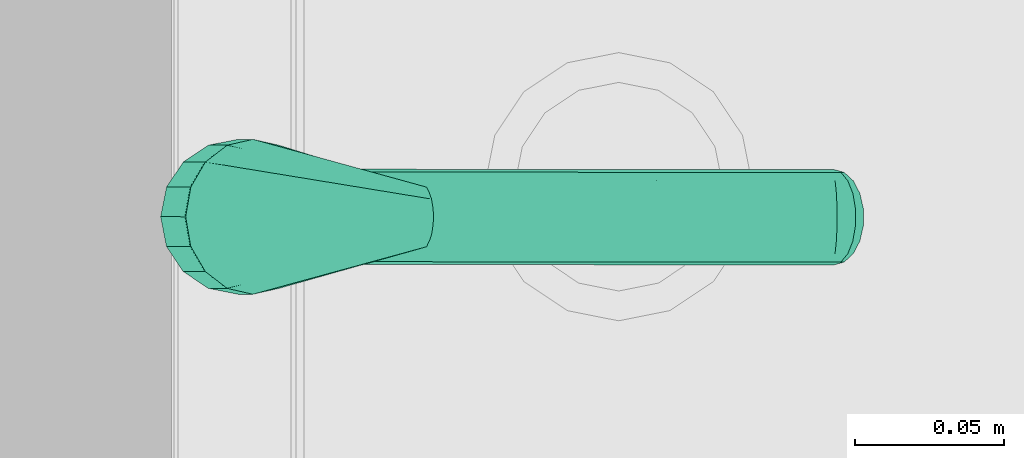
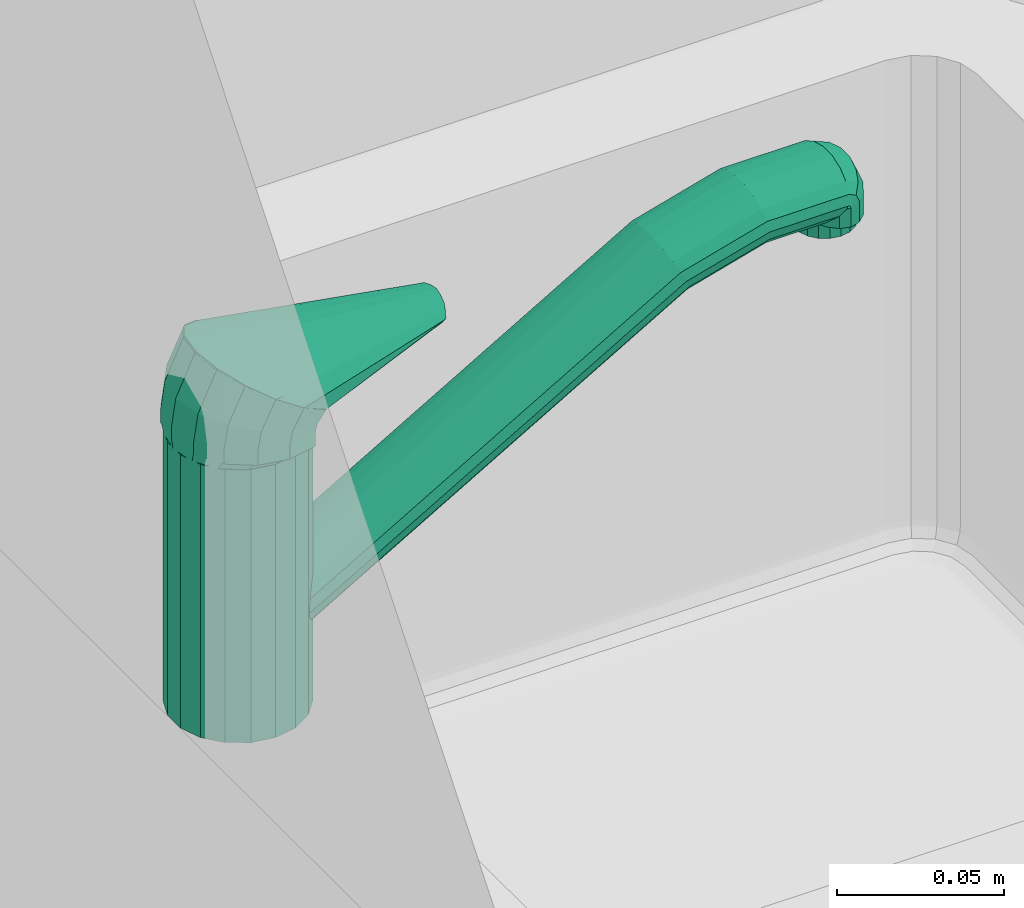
# One storey, part 88 of 127: 1 flow terminal.
"""IFC2X3 building model written with IfcOpenShell, lengths in millimetres."""

import ifcopenshell
import ifcopenshell.guid

model = None  # the IFC model being written
_history = None  # IfcOwnerHistory: only IFC2X3 demands one
_inside = {}  # id of a spatial element -> (the spatial element, [elements in it])
_under = {}  # id of a project, library or spatial element -> (it, [spatial elements below it])
_declared = {}  # id of a project -> (the project, [libraries it declares])
_typed = {}  # id of a type object -> (the type object, [elements of that type])
_made_of = {}  # id of a material, layer set ... -> (it, [elements and type objects made of it])


def new_model(schema):
    """Start an empty IFC model of exactly this schema.

    Asked for "IFC4X3", IfcOpenShell would pick the latest addendum, in which some entities
    have other attributes; the version numbers below select the first issue.
    IFC2X3 requires an IfcOwnerHistory on every rooted entity: one is made here for all.
    """
    global model, _history
    if schema == "IFC4X3":
        model = ifcopenshell.file(schema_version=(4, 3, 0, 0))
    else:
        model = ifcopenshell.file(schema=schema)
    _inside.clear()
    _under.clear()
    _declared.clear()
    _typed.clear()
    _made_of.clear()
    _history = None
    if model.schema == "IFC2X3":
        org = make("IfcOrganization", Name="unknown")
        user = make(
            "IfcPersonAndOrganization",
            ThePerson=make("IfcPerson", FamilyName="unknown"),
            TheOrganization=org,
        )
        app = make(
            "IfcApplication",
            ApplicationDeveloper=org,
            Version="unknown",
            ApplicationFullName="unknown",
            ApplicationIdentifier="unknown",
        )
        _history = make(
            "IfcOwnerHistory",
            OwningUser=user,
            OwningApplication=app,
            ChangeAction="ADDED",
            CreationDate=0,
        )
    return model


def make(cls, **values):
    """One entity of the class cls with the attributes given. An attribute that is None is left unset."""
    return model.create_entity(
        cls, **{name: value for name, value in values.items() if value is not None}
    )


def entity(cls, *values):
    """Any entity or typed value of the class cls, its attributes in the order of the schema. None: left unset."""
    e = model.create_entity(cls)
    for i, value in enumerate(values):
        if value is not None:
            e[i] = value
    return e


def rooted(cls, **values):
    """An entity with a GlobalId (a new one), such as an element, a storey or a relation."""
    return make(cls, GlobalId=ifcopenshell.guid.new(), OwnerHistory=_history, **values)


def si_unit(unit_type, name, prefix=None):
    """IfcSIUnit, for example si_unit("LENGTHUNIT", "METRE", prefix="MILLI")."""
    return make("IfcSIUnit", UnitType=unit_type, Prefix=prefix, Name=name)


def converted_unit(unit_type, name, factor, base, dimensions=None, offset=None):
    """IfcConversionBasedUnit, such as the inch: factor (a typed value) times the base unit."""
    return make(
        "IfcConversionBasedUnit"
        if offset is None
        else "IfcConversionBasedUnitWithOffset",
        ConversionOffset=offset,
        Dimensions=None
        if dimensions is None
        else entity("IfcDimensionalExponents", *dimensions),
        UnitType=unit_type,
        Name=name,
        ConversionFactor=make(
            "IfcMeasureWithUnit", ValueComponent=factor, UnitComponent=base
        ),
    )


def derived_unit(unit_type, elements):
    """IfcDerivedUnit: a product of units, each with its exponent."""
    return make(
        "IfcDerivedUnit",
        Elements=[
            make("IfcDerivedUnitElement", Unit=unit, Exponent=power)
            for unit, power in elements
        ],
        UnitType=unit_type,
    )


def money_unit(currency):
    """IfcMonetaryUnit."""
    return make("IfcMonetaryUnit", Currency=currency)


def assignment(units):
    """IfcUnitAssignment: the units of a project."""
    return None if units is None else make("IfcUnitAssignment", Units=units)


def point(xyz):
    """IfcCartesianPoint."""
    return None if xyz is None else make("IfcCartesianPoint", Coordinates=xyz)


def direction(xyz):
    """IfcDirection."""
    return None if xyz is None else make("IfcDirection", DirectionRatios=xyz)


def frame(location, z_axis=None, x_axis=None):
    """IfcAxis2Placement3D, a coordinate frame: its origin and axes. An axis left out is left unset."""
    return make(
        "IfcAxis2Placement3D",
        Location=point(location),
        Axis=direction(z_axis),
        RefDirection=direction(x_axis),
    )


def origin_with_axes():
    """The frame at (0, 0, 0) with the z axis (0, 0, 1) and the x axis (1, 0, 0) written out."""
    return frame((0.0, 0.0, 0.0), z_axis=(0.0, 0.0, 1.0), x_axis=(1.0, 0.0, 0.0))


def place(relative_to, where):
    """IfcLocalPlacement: puts the frame where relative to a parent placement (None: the world)."""
    return make(
        "IfcLocalPlacement", PlacementRelTo=relative_to, RelativePlacement=where
    )


def context(
    kind, dimensions, precision=None, world=None, true_north=None, identifier=None
):
    """IfcGeometricRepresentationContext, for example the 3D "Model" context."""
    return make(
        "IfcGeometricRepresentationContext",
        ContextIdentifier=identifier,
        ContextType=kind,
        CoordinateSpaceDimension=dimensions,
        Precision=precision,
        WorldCoordinateSystem=world,
        TrueNorth=true_north,
    )


def subcontext(parent, identifier, kind, view, scale=None):
    """IfcGeometricRepresentationSubContext, for example "Body" below "Model"."""
    return make(
        "IfcGeometricRepresentationSubContext",
        ContextIdentifier=identifier,
        ContextType=kind,
        ParentContext=parent,
        TargetScale=scale,
        TargetView=view,
    )


def project(units=None, contexts=None):
    """IfcProject with its units and contexts."""
    return rooted(
        "IfcProject",
        Name="project",
        RepresentationContexts=contexts,
        UnitsInContext=assignment(units),
    )


def spatial(cls, under=None, at=None, **own):
    """A site, building, storey or space (cls), placed at a placement, below another one or the project."""
    s = rooted(cls, ObjectPlacement=at, **own)
    if under is not None:
        _under.setdefault(under.id(), (under, []))[1].append(s)
    return s


def faces_of(points, faces, orient=None, outer=None):
    """IfcFace entities. A face is a list of loops; a loop is a list of indices into points, from 0.

    orient and outer hold one flag for each loop. By default every Orientation is true, the
    first loop of a face is its IfcFaceOuterBound and the others are IfcFaceBound.
    """
    made = []
    for i, loops in enumerate(faces):
        bounds = []
        for j, loop in enumerate(loops):
            is_outer = j == 0 if outer is None else outer[i][j]
            bounds.append(
                make(
                    "IfcFaceOuterBound" if is_outer else "IfcFaceBound",
                    Bound=make("IfcPolyLoop", Polygon=[points[k] for k in loop]),
                    Orientation=True if orient is None else orient[i][j],
                )
            )
        made.append(make("IfcFace", Bounds=bounds))
    return made


def open_shell(faces, orient=None, outer=None):
    """The faces of one IfcOpenShell. surface_model builds it on its shared points."""
    return ("IfcOpenShell", faces, orient, outer)


def faceted_brep(points, faces, orient=None, outer=None, voids=None):
    """IfcFacetedBrep: a solid bounded by flat faces; with voids (closed shells), ...WithVoids."""
    shared = [point(p) for p in points]
    hull = make("IfcClosedShell", CfsFaces=faces_of(shared, faces, orient, outer))
    if voids is None:
        return make("IfcFacetedBrep", Outer=hull)
    return make(
        "IfcFacetedBrepWithVoids",
        Outer=hull,
        Voids=[
            make(cls, CfsFaces=faces_of(shared, fs, o, b)) for cls, fs, o, b in voids
        ],
    )


def surface_model(cls, points, shells):
    """IfcFaceBasedSurfaceModel or IfcShellBasedSurfaceModel (cls): surfaces that need not close."""
    shared = [point(p) for p in points]
    made = [make(c, CfsFaces=faces_of(shared, fs, o, b)) for c, fs, o, b in shells]
    if cls == "IfcFaceBasedSurfaceModel":
        return make(cls, FbsmFaces=made)
    return make(cls, SbsmBoundary=made)


def shape(context_of_items, identifier, shape_type, items):
    """IfcShapeRepresentation: the items that make up one representation, for example the "Body"."""
    return make(
        "IfcShapeRepresentation",
        ContextOfItems=context_of_items,
        RepresentationIdentifier=identifier,
        RepresentationType=shape_type,
        Items=items,
    )


def source(mapping_origin, context_of_items, identifier, shape_type, items):
    """IfcRepresentationMap: a shape defined once, which mapped items show again and again."""
    return make(
        "IfcRepresentationMap",
        MappingOrigin=mapping_origin,
        MappedRepresentation=shape(context_of_items, identifier, shape_type, items),
    )


def transform(
    local_origin,
    x_axis=None,
    y_axis=None,
    z_axis=None,
    scale=None,
    scale2=None,
    scale3=None,
    uniform=True,
):
    """IfcCartesianTransformationOperator3D, or its non-uniform kind. x_axis, y_axis, z_axis: its Axis1, 2, 3."""
    if uniform:
        return make(
            "IfcCartesianTransformationOperator3D",
            Axis1=direction(x_axis),
            Axis2=direction(y_axis),
            LocalOrigin=point(local_origin),
            Scale=scale,
            Axis3=direction(z_axis),
        )
    return make(
        "IfcCartesianTransformationOperator3DnonUniform",
        Axis1=direction(x_axis),
        Axis2=direction(y_axis),
        LocalOrigin=point(local_origin),
        Scale=scale,
        Axis3=direction(z_axis),
        Scale2=scale2,
        Scale3=scale3,
    )


def mapped(mapping_source, mapping_target):
    """IfcMappedItem: shows the shape of a source again, moved by a transform."""
    return make(
        "IfcMappedItem", MappingSource=mapping_source, MappingTarget=mapping_target
    )


def made_of(thing, what):
    """Note that an element or type object is made of a material, layer set ...; save() writes the relation."""
    if what is not None:
        _made_of.setdefault(what.id(), (what, []))[1].append(thing)
    return thing


def type_object(cls, material=None, **own):
    """A type object (cls), such as IfcWallType, which elements share."""
    return made_of(rooted(cls, **own), material)


def element(
    cls,
    number,
    at=None,
    inside=None,
    cuts=None,
    type_object=None,
    material=None,
    context=None,
    identifier="Body",
    shape_type=None,
    held_by="IfcProductDefinitionShape",
    body=None,
    shapes=None,
    **own,
):
    """One element of the class cls, such as IfcWall. Its Tag is "e" and its number.

    at: its placement. inside: the storey or other place that contains it. cuts: it is an
    opening in that element (IfcRelVoidsElement). A single representation is given by context,
    identifier, shape_type and body (its items); several are given by shapes. held_by: the class
    of the entity that holds the representations. save() writes the other relations.
    """
    e = rooted(cls, Tag="e%d" % number, ObjectPlacement=at, **own)
    if body is not None:
        shapes = [shape(context, identifier, shape_type, body)]
    if shapes is not None:
        e.Representation = make(held_by, Representations=shapes)
    if inside is not None:
        _inside.setdefault(inside.id(), (inside, []))[1].append(e)
    if cuts is not None:
        rooted(
            "IfcRelVoidsElement", RelatingBuildingElement=cuts, RelatedOpeningElement=e
        )
    if type_object is not None:
        _typed.setdefault(type_object.id(), (type_object, []))[1].append(e)
    return made_of(e, material)


def aggregate(whole, parts):
    """IfcRelAggregates: a whole, such as a stair, and the parts it consists of."""
    return rooted("IfcRelAggregates", RelatingObject=whole, RelatedObjects=parts)


def save(model, path):
    """Write the relations noted so far, then the file.

    IfcRelAggregates (storeys below a building ...), IfcRelContainedInSpatialStructure (elements
    in a storey), IfcRelDefinesByType, IfcRelAssociatesMaterial and IfcRelDeclares: one each for
    every whole, place, type object, material and project.
    """
    for whole, parts in _under.values():
        aggregate(whole, parts)
    for where, things in _inside.values():
        rooted(
            "IfcRelContainedInSpatialStructure",
            RelatedElements=things,
            RelatingStructure=where,
        )
    for kind, things in _typed.values():
        rooted("IfcRelDefinesByType", RelatedObjects=things, RelatingType=kind)
    for what, things in _made_of.values():
        rooted("IfcRelAssociatesMaterial", RelatedObjects=things, RelatingMaterial=what)
    for by, libraries in _declared.values():
        rooted("IfcRelDeclares", RelatingContext=by, RelatedDefinitions=libraries)
    model.write(path)


model = new_model("IFC2X3")

# Units and contexts
model_context = context("Model", 3, precision=1e-05, world=origin_with_axes(), true_north=direction((0.0, 1.0)))
body_context = subcontext(model_context, "Body", "Model", "MODEL_VIEW")
ifc_project = project(units=[si_unit("LENGTHUNIT", "METRE", prefix="MILLI"), si_unit("AREAUNIT", "SQUARE_METRE"), si_unit("VOLUMEUNIT", "CUBIC_METRE"), converted_unit("PLANEANGLEUNIT", "DEGREE", entity("IfcPlaneAngleMeasure", 0.0174532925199), si_unit("PLANEANGLEUNIT", "RADIAN"), dimensions=[0, 0, 0, 0, 0, 0, 0]), si_unit("SOLIDANGLEUNIT", "STERADIAN"), money_unit("EUR"), converted_unit("TIMEUNIT", "Year", entity("IfcTimeMeasure", 31556926.0), si_unit("TIMEUNIT", "SECOND"), dimensions=[0, 0, 1, 0, 0, 0, 0]), si_unit("MASSUNIT", "GRAM", prefix="KILO"), si_unit("THERMODYNAMICTEMPERATUREUNIT", "DEGREE_CELSIUS"), si_unit("LUMINOUSINTENSITYUNIT", "LUMEN"), si_unit("ENERGYUNIT", "JOULE", prefix="MEGA"), derived_unit("THERMALCONDUCTANCEUNIT", [(si_unit("POWERUNIT", "WATT"), 1), (si_unit("LENGTHUNIT", "METRE"), -1), (si_unit("THERMODYNAMICTEMPERATUREUNIT", "KELVIN"), -1)]), derived_unit("SPECIFICHEATCAPACITYUNIT", [(si_unit("ENERGYUNIT", "JOULE"), 1), (si_unit("MASSUNIT", "GRAM", prefix="KILO"), -1), (si_unit("THERMODYNAMICTEMPERATUREUNIT", "KELVIN"), -1)]), derived_unit("MASSDENSITYUNIT", [(si_unit("MASSUNIT", "GRAM", prefix="KILO"), 1), (si_unit("VOLUMEUNIT", "CUBIC_METRE"), -1)])], contexts=[model_context])

# Site, building, storey
site_placement = place(None, origin_with_axes())
site = spatial("IfcSite", under=ifc_project, at=site_placement, Name="Site", CompositionType="ELEMENT")
building_placement = place(site_placement, origin_with_axes())
building = spatial("IfcBuilding", under=site, at=building_placement, Name="Building", CompositionType="ELEMENT")
storey_placement = place(building_placement, origin_with_axes())
storey = spatial("IfcBuildingStorey", under=building, at=storey_placement, Name="1 KORRUS", CompositionType="ELEMENT", Elevation=0.0)

# Flow terminal
sanitary_terminal_type = type_object("IfcSanitaryTerminalType", Name="Tap 22", PredefinedType="NOTDEFINED")
shared_shape = source(origin_with_axes(), body_context, "Body", "SurfaceModel", [
    faceted_brep([(-21.1430839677, -7.69545322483, 1000.0), (-22.5, 0.0, 1000.0), (-21.1430839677, 7.69545322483, 1000.0), (-17.2359999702, 14.4627212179, 1000.0), (-11.25, 19.4855715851, 1000.0), (-3.90708399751, 22.1581744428, 1000.0), (3.90708399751, 22.1581744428, 1000.0), (11.25, 19.4855715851, 1000.0), (17.2359999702, 14.4627212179, 1000.0), (21.1430839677, 7.69545322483, 1000.0), (22.5, 0.0, 1000.0), (21.1430839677, -7.69545322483, 1000.0), (17.2359999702, -14.4627212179, 1000.0), (11.25, -19.4855715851, 1000.0), (3.90708399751, -22.1581744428, 1000.0), (-3.90708399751, -22.1581744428, 1000.0), (-11.25, -19.4855715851, 1000.0), (-17.2359999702, -14.4627212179, 1000.0), (-21.1430839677, -7.69545322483, 1010.0), (-22.5, 0.0, 1010.0), (-21.1430839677, 7.69545322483, 1010.0), (-17.2359999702, 14.4627212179, 1010.0), (-11.25, 19.4855715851, 1010.0), (-3.90708399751, 22.1581744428, 1010.0), (3.90708399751, 22.1581744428, 1010.0), (11.25, 19.4855715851, 1010.0), (17.2359999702, 14.4627212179, 1010.0), (21.1430839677, 7.69545322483, 1010.0), (22.5, 0.0, 1010.0), (21.1430839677, -7.69545322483, 1010.0), (17.2359999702, -14.4627212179, 1010.0), (11.25, -19.4855715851, 1010.0), (3.90708399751, -22.1581744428, 1010.0), (-3.90708399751, -22.1581744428, 1010.0), (-11.25, -19.4855715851, 1010.0), (-17.2359999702, -14.4627212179, 1010.0)], [[[0, 1, 2, 3, 4, 5, 6, 7, 8, 9, 10, 11, 12, 13, 14, 15, 16, 17]], [[0, 18, 19, 1]], [[1, 19, 20, 2]], [[2, 20, 21, 3]], [[3, 21, 22, 4]], [[4, 22, 23, 5]], [[5, 23, 24, 6]], [[6, 24, 25, 7]], [[7, 25, 26, 8]], [[8, 26, 27, 9]], [[9, 27, 28, 10]], [[10, 28, 29, 11]], [[11, 29, 30, 12]], [[12, 30, 31, 13]], [[13, 31, 32, 14]], [[14, 32, 33, 15]], [[15, 33, 34, 16]], [[16, 34, 35, 17]], [[17, 35, 18, 0]], [[18, 35, 34, 33, 32, 31, 30, 29, 28, 27, 26, 25, 24, 23, 22, 21, 20, 19]]]),
    faceted_brep([(-21.1430839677, -7.69545322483, 1010.0), (-22.5, 0.0, 1010.0), (-21.1430839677, 7.69545322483, 1010.0), (-17.2359999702, 14.4627212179, 1010.0), (-11.25, 19.4855715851, 1010.0), (-3.90708399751, 22.1581744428, 1010.0), (3.90708399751, 22.1581744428, 1010.0), (11.25, 19.4855715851, 1010.0), (17.2359999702, 14.4627212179, 1010.0), (21.1430839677, 7.69545322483, 1010.0), (22.5, 0.0, 1010.0), (21.1430839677, -7.69545322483, 1010.0), (17.2359999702, -14.4627212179, 1010.0), (11.25, -19.4855715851, 1010.0), (3.90708399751, -22.1581744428, 1010.0), (-3.90708399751, -22.1581744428, 1010.0), (-11.25, -19.4855715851, 1010.0), (-17.2359999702, -14.4627212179, 1010.0), (-21.1430839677, -7.69545322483, 1055.0), (-22.5, 0.0, 1055.0), (-21.1430839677, 7.69545322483, 1055.0), (-17.2359999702, 14.4627212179, 1055.0), (-11.25, 19.4855715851, 1055.0), (-3.90708399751, 22.1581744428, 1055.0), (3.90708399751, 22.1581744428, 1055.0), (11.25, 19.4855715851, 1055.0), (17.2359999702, 14.4627212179, 1055.0), (21.1430839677, 7.69545322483, 1055.0), (22.5, 0.0, 1055.0), (21.1430839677, -7.69545322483, 1055.0), (17.2359999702, -14.4627212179, 1055.0), (11.25, -19.4855715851, 1055.0), (3.90708399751, -22.1581744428, 1055.0), (-3.90708399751, -22.1581744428, 1055.0), (-11.25, -19.4855715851, 1055.0), (-17.2359999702, -14.4627212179, 1055.0)], [[[0, 1, 2, 3, 4, 5, 6, 7, 8, 9, 10, 11, 12, 13, 14, 15, 16, 17]], [[0, 18, 19, 1]], [[1, 19, 20, 2]], [[2, 20, 21, 3]], [[3, 21, 22, 4]], [[4, 22, 23, 5]], [[5, 23, 24, 6]], [[6, 24, 25, 7]], [[7, 25, 26, 8]], [[8, 26, 27, 9]], [[9, 27, 28, 10]], [[10, 28, 29, 11]], [[11, 29, 30, 12]], [[12, 30, 31, 13]], [[13, 31, 32, 14]], [[14, 32, 33, 15]], [[15, 33, 34, 16]], [[16, 34, 35, 17]], [[17, 35, 18, 0]], [[18, 35, 34, 33, 32, 31, 30, 29, 28, 27, 26, 25, 24, 23, 22, 21, 20, 19]]]),
    faceted_brep([(-21.1430839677, -7.69545322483, 1055.0), (-22.5, 0.0, 1055.0), (-21.1430839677, 7.69545322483, 1055.0), (-17.2359999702, 14.4627212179, 1055.0), (-11.25, 19.4855715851, 1055.0), (-3.90708399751, 22.1581744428, 1055.0), (3.90708399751, 22.1581744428, 1055.0), (11.25, 19.4855715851, 1055.0), (17.2359999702, 14.4627212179, 1055.0), (21.1430839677, 7.69545322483, 1055.0), (22.5, 0.0, 1055.0), (21.1430839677, -7.69545322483, 1055.0), (17.2359999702, -14.4627212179, 1055.0), (11.25, -19.4855715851, 1055.0), (3.90708399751, -22.1581744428, 1055.0), (-3.90708399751, -22.1581744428, 1055.0), (-11.25, -19.4855715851, 1055.0), (-17.2359999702, -14.4627212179, 1055.0), (-21.1430839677, -7.69545322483, 1100.0), (-22.5, 0.0, 1100.0), (-21.1430839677, 7.69545322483, 1100.0), (-17.2359999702, 14.4627212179, 1100.0), (-11.25, 19.4855715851, 1100.0), (-3.90708399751, 22.1581744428, 1100.0), (3.90708399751, 22.1581744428, 1100.0), (11.25, 19.4855715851, 1100.0), (17.2359999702, 14.4627212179, 1100.0), (21.1430839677, 7.69545322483, 1100.0), (22.5, 0.0, 1100.0), (21.1430839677, -7.69545322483, 1100.0), (17.2359999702, -14.4627212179, 1100.0), (11.25, -19.4855715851, 1100.0), (3.90708399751, -22.1581744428, 1100.0), (-3.90708399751, -22.1581744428, 1100.0), (-11.25, -19.4855715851, 1100.0), (-17.2359999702, -14.4627212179, 1100.0)], [[[0, 1, 2, 3, 4, 5, 6, 7, 8, 9, 10, 11, 12, 13, 14, 15, 16, 17]], [[0, 18, 19, 1]], [[1, 19, 20, 2]], [[2, 20, 21, 3]], [[3, 21, 22, 4]], [[4, 22, 23, 5]], [[5, 23, 24, 6]], [[6, 24, 25, 7]], [[7, 25, 26, 8]], [[8, 26, 27, 9]], [[9, 27, 28, 10]], [[10, 28, 29, 11]], [[11, 29, 30, 12]], [[12, 30, 31, 13]], [[13, 31, 32, 14]], [[14, 32, 33, 15]], [[15, 33, 34, 16]], [[16, 34, 35, 17]], [[17, 35, 18, 0]], [[18, 35, 34, 33, 32, 31, 30, 29, 28, 27, 26, 25, 24, 23, 22, 21, 20, 19]]]),
    surface_model("IfcShellBasedSurfaceModel", [(-20.7872894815, -8.61037722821, 1100.0), (-24.0208678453, -12.9497692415, 1104.5), (-26.0, -3.0, 1104.5), (-22.5, 0.0, 1100.0), (-15.9099025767, -15.9099025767, 1100.0), (-24.0208678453, -12.9497692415, 1104.5), (-24.0208678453, 6.94976924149, 1104.5), (-20.7872894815, 8.61037722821, 1100.0), (-8.61037722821, -20.7872894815, 1100.0), (-18.3847763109, 15.3847763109, 1104.5), (-15.9099025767, 15.9099025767, 1100.0), (0.0, -25.1, 1104.5), (-9.94976924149, 21.0208678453, 1104.5), (-8.61037722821, 20.7872894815, 1100.0), (0.0, -22.5, 1100.0), (0.0, 23.0, 1104.5), (0.0, 22.5, 1100.0), (8.61037722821, -20.7872894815, 1100.0), (9.94976924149, 21.0208678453, 1104.5), (8.61037722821, 20.7872894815, 1100.0), (15.9099025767, -15.9099025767, 1100.0), (18.3847763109, 15.3847763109, 1104.5), (15.9099025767, 15.9099025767, 1100.0), (24.0208678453, -12.9497692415, 1104.5), (24.0208678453, 6.94976924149, 1104.5), (20.7872894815, 8.61037722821, 1100.0), (20.7872894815, -8.61037722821, 1100.0), (26.0, -3.0, 1104.5), (22.5, 0.0, 1100.0)], [open_shell([[[0, 1, 2, 3]], [[4, 5, 1, 0]], [[3, 2, 6, 7]], [[8, 5, 4]], [[7, 6, 9, 10]], [[8, 11, 5]], [[10, 9, 12, 13]], [[14, 11, 8]], [[13, 12, 15, 16]], [[17, 11, 14]], [[16, 15, 18, 19]], [[20, 11, 17]], [[19, 18, 21, 22]], [[20, 23, 11]], [[22, 21, 24, 25]], [[26, 23, 20]], [[25, 24, 27, 28]], [[28, 27, 23, 26]]])]),
    surface_model("IfcShellBasedSurfaceModel", [(-24.0208678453, -12.9497692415, 1103.0), (-24.0208678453, -12.9497692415, 1108.0), (-26.0, -3.0, 1108.0), (-24.0208678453, -12.9497692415, 1103.0), (-26.0, -4.0, 1113.0), (-26.0, -3.0, 1103.0), (-24.0208678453, -12.9497692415, 1108.0), (-24.0208678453, 5.75655144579, 1114.95131029), (-24.0208678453, -13.7565514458, 1111.04868971), (-24.0208678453, 6.94976924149, 1108.0), (0.0, -25.1, 1103.0), (-24.0208678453, 0.638818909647, 1124.93646795), (-26.0, -8.0, 1120.0), (-24.0208678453, 6.94976924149, 1103.0), (0.0, -25.1, 1108.0), (-24.0208678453, -13.7565514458, 1111.04868971), (-18.3847763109, 7.96245595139, 1129.1214034), (-18.3847763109, 14.0277563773, 1116.60555128), (-24.0208678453, -16.6388189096, 1115.06353205), (-18.3847763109, 15.3847763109, 1108.0), (24.0208678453, -12.9497692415, 1103.0), (-18.3847763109, 15.3847763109, 1103.0), (24.0208678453, -12.9497692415, 1108.0), (0.0, -25.6708329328, 1108.66583341), (-24.0208678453, -16.6388189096, 1115.06353205), (-9.94976924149, 12.8559537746, 1131.91768787), (-9.94976924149, 19.5543988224, 1117.71087976), (-9.94976924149, 21.0208678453, 1108.0), (26.0, -3.0, 1103.0), (-9.94976924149, 21.0208678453, 1103.0), (26.0, -3.0, 1108.0), (24.0208678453, -13.7565514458, 1111.04868971), (0.0, -27.188173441, 1109.03532946), (0.0, 14.5743216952, 1132.8996124), (0.0, 21.495097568, 1118.09901951), (0.0, 23.0, 1108.0), (24.0208678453, 6.94976924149, 1103.0), (0.0, 23.0, 1103.0), (24.0208678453, 6.94976924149, 1108.0), (26.0, -4.0, 1113.0), (24.0208678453, -16.6388189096, 1115.06353205), (9.94976924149, 12.8559537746, 1131.91768787), (9.94976924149, 19.5543988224, 1117.71087976), (9.94976924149, 21.0208678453, 1108.0), (18.3847763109, 15.3847763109, 1103.0), (9.94976924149, 21.0208678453, 1103.0), (18.3847763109, 15.3847763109, 1108.0), (24.0208678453, 5.75655144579, 1114.95131029), (26.0, -8.0, 1120.0), (18.3847763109, 7.96245595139, 1129.1214034), (18.3847763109, 14.0277563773, 1116.60555128), (24.0208678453, 0.638818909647, 1124.93646795)], [open_shell([[[0, 1, 2]], [[1, 0, 3]], [[4, 2, 1]], [[2, 5, 0]], [[3, 6, 1]], [[2, 4, 7]], [[1, 8, 4]], [[5, 2, 9]], [[6, 3, 10]], [[8, 1, 6]], [[11, 7, 4]], [[7, 9, 2]], [[12, 4, 8]], [[9, 13, 5]], [[10, 14, 6]], [[6, 15, 8]], [[7, 11, 16]], [[4, 12, 11]], [[9, 7, 17]], [[8, 18, 12]], [[13, 9, 19]], [[14, 10, 20]], [[15, 6, 14]], [[18, 8, 15]], [[16, 17, 7]], [[17, 19, 9]], [[19, 21, 13]], [[20, 22, 14]], [[14, 23, 15]], [[15, 24, 18]], [[17, 16, 25]], [[19, 17, 26]], [[21, 19, 27]], [[22, 20, 28]], [[23, 14, 22]], [[24, 15, 23]], [[25, 26, 17]], [[26, 27, 19]], [[27, 29, 21]], [[28, 30, 22]], [[22, 31, 23]], [[23, 32, 24]], [[26, 25, 33]], [[27, 26, 34]], [[29, 27, 35]], [[30, 28, 36]], [[31, 22, 30]], [[32, 23, 31]], [[33, 34, 26]], [[34, 35, 27]], [[35, 37, 29]], [[36, 38, 30]], [[30, 39, 31]], [[31, 40, 32]], [[34, 33, 41]], [[35, 34, 42]], [[37, 35, 43]], [[38, 36, 44]], [[39, 30, 38]], [[40, 31, 39]], [[41, 42, 34]], [[42, 43, 35]], [[43, 45, 37]], [[44, 46, 38]], [[38, 47, 39]], [[39, 48, 40]], [[42, 41, 49]], [[43, 42, 50]], [[45, 43, 46]], [[46, 44, 45]], [[47, 38, 46]], [[48, 39, 47]], [[49, 50, 42]], [[50, 46, 43]], [[46, 50, 47]], [[47, 51, 48]], [[50, 49, 51]], [[51, 47, 50]]])]),
    surface_model("IfcShellBasedSurfaceModel", [(-24.0208678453, -16.7440274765, 1115.25238044), (-10.0, -66.2556184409, 1122.50657537), (-26.0, -8.0, 1120.0), (-9.0, -65.3013009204, 1120.74894114), (-8.0, -67.2099359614, 1124.26420959), (0.0, -27.4218581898, 1109.4547914), (0.0, -63.8698246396, 1118.1124898), (9.0, -65.3013009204, 1120.74894114), (10.0, -66.2556184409, 1122.50657537), (8.0, -67.2099359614, 1124.26420959), (6.0, -67.9256741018, 1125.58243526), (3.0, -68.4028328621, 1126.46125237), (0.0, -68.6414122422, 1126.90066093), (-3.0, -68.4028328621, 1126.46125237), (-6.0, -67.9256741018, 1125.58243526), (-24.0208678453, 0.744027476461, 1124.74761956), (24.0208678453, -16.7440274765, 1115.25238044), (26.0, -8.0, 1120.0), (24.0208678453, 0.744027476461, 1124.74761956), (18.3847763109, 8.15685603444, 1128.77245707), (9.94976924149, 13.1099497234, 1131.46176752), (0.0, 14.8492449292, 1132.40612777), (-9.94976924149, 13.1099497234, 1131.46176752), (-18.3847763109, 8.15685603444, 1128.77245707)], [open_shell([[[0, 1, 2]], [[0, 3, 1]], [[2, 1, 4]], [[5, 3, 0]], [[3, 6, 7, 8, 9, 10, 11, 12, 13, 14, 4, 1]], [[2, 4, 15]], [[5, 6, 3]], [[16, 7, 6]], [[17, 8, 7]], [[18, 9, 8]], [[19, 10, 9]], [[20, 11, 10]], [[21, 12, 11]], [[22, 13, 12]], [[23, 14, 13]], [[15, 4, 14]], [[16, 6, 5]], [[17, 7, 16]], [[18, 8, 17]], [[19, 9, 18]], [[20, 10, 19]], [[21, 11, 20]], [[22, 12, 21]], [[23, 13, 22]], [[15, 14, 23]]])]),
    surface_model("IfcShellBasedSurfaceModel", [(-16.0, -15.0, 1035.8), (-16.0, -146.0, 1112.0), (-15.0350819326, -144.663324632, 1115.17921593), (-15.0350819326, -13.350271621, 1038.79711945), (-15.0350819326, -16.649728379, 1032.80288055), (-15.0350819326, -147.336675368, 1108.82078407), (-16.0, -175.0, 1120.0), (-15.0350819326, -174.536897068, 1123.42020143), (-12.2567110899, -143.487872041, 1117.97497151), (-12.2567110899, -11.8995248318, 1041.43274206), (-12.2567110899, -18.1004751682, 1030.16725794), (-12.2567110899, -148.512127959, 1106.02502849), (-15.0350819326, -175.463102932, 1116.57979857), (-16.0, -202.0, 1120.0), (-15.0350819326, -202.702022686, 1123.42020143), (-12.2567110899, -174.129651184, 1126.4278761), (-8.0, -142.615419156, 1120.05005733), (-8.0, -10.8227411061, 1043.38897285), (-8.0, -19.1772588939, 1028.21102715), (-8.0, -149.384580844, 1103.94994267), (-12.2567110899, -175.870348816, 1113.5721239), (-15.0350819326, -201.297977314, 1116.57979857), (-16.0, -202.7, 1119.7), (-15.0350819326, -205.304747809, 1122.30474781), (-12.2567110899, -203.319371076, 1126.4278761), (-8.0, -173.827382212, 1128.66025404), (-2.77837084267, -142.151196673, 1121.15418744), (-2.77837084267, -10.2497964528, 1044.42986151), (-2.77837084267, -19.7502035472, 1027.17013849), (-2.77837084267, -149.848803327, 1102.84581256), (-8.0, -176.172617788, 1111.33974596), (-12.2567110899, -200.680628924, 1113.5721239), (-15.0350819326, -200.095252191, 1117.09525219), (-16.0, -203.0, 1119.0), (-15.0350819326, -206.420201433, 1119.70202269), (-12.2567110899, -207.595324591, 1124.59532459), (-8.0, -203.777583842, 1128.66025404), (-2.77837084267, -173.666548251, 1129.84807753), (2.77837084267, -142.151196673, 1121.15418744), (2.77837084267, -10.2497964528, 1044.42986151), (2.77837084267, -19.7502035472, 1027.17013849), (2.77837084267, -149.848803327, 1102.84581256), (-2.77837084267, -176.333451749, 1110.15192247), (-8.0, -200.222416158, 1111.33974596), (-12.2567110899, -197.804675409, 1114.80467541), (-15.0350819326, -199.579798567, 1118.29797731), (-16.0, -203.0, 1112.0), (-15.0350819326, -206.420201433, 1112.0), (-12.2567110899, -209.427876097, 1120.31937108), (-8.0, -209.295452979, 1126.29545298), (-2.77837084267, -204.021393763, 1129.84807753), (2.77837084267, -173.666548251, 1129.84807753), (8.0, -142.615419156, 1120.05005733), (8.0, -10.8227411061, 1043.38897285), (8.0, -19.1772588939, 1028.21102715), (8.0, -149.384580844, 1103.94994267), (2.77837084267, -176.333451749, 1110.15192247), (-2.77837084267, -199.978606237, 1110.15192247), (-8.0, -196.104547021, 1113.10454702), (-12.2567110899, -196.572123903, 1117.68062892), (-15.0350819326, -199.579798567, 1112.0), (-12.2567110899, -196.572123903, 1112.0), (-8.0, -194.339745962, 1112.0), (-2.77837084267, -193.15192247, 1112.0), (2.77837084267, -193.15192247, 1112.0), (8.0, -194.339745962, 1112.0), (12.2567110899, -196.572123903, 1112.0), (15.0350819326, -199.579798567, 1112.0), (16.0, -203.0, 1112.0), (15.0350819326, -206.420201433, 1112.0), (12.2567110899, -209.427876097, 1112.0), (8.0, -211.660254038, 1112.0), (2.77837084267, -212.84807753, 1112.0), (-2.77837084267, -212.84807753, 1112.0), (-8.0, -211.660254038, 1112.0), (-12.2567110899, -209.427876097, 1112.0), (-8.0, -211.660254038, 1120.77758384), (-2.77837084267, -210.2000724, 1127.2000724), (2.77837084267, -204.021393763, 1129.84807753), (8.0, -173.827382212, 1128.66025404), (12.2567110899, -143.487872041, 1117.97497151), (12.2567110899, -11.8995248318, 1041.43274206), (12.2567110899, -18.1004751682, 1030.16725794), (12.2567110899, -148.512127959, 1106.02502849), (8.0, -176.172617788, 1111.33974596), (2.77837084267, -199.978606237, 1110.15192247), (-2.77837084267, -195.1999276, 1112.1999276), (-8.0, -194.339745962, 1117.22241616), (-2.77837084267, -193.15192247, 1116.97860624), (2.77837084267, -193.15192247, 1116.97860624), (8.0, -194.339745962, 1117.22241616), (12.2567110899, -196.572123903, 1117.68062892), (15.0350819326, -199.579798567, 1118.29797731), (16.0, -203.0, 1119.0), (15.0350819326, -206.420201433, 1119.70202269), (12.2567110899, -209.427876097, 1120.31937108), (8.0, -211.660254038, 1120.77758384), (2.77837084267, -212.84807753, 1121.02139376), (-2.77837084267, -212.84807753, 1121.02139376), (2.77837084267, -210.2000724, 1127.2000724), (8.0, -203.777583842, 1128.66025404), (12.2567110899, -174.129651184, 1126.4278761), (15.0350819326, -144.663324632, 1115.17921593), (15.0350819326, -13.350271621, 1038.79711945), (15.0350819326, -16.649728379, 1032.80288055), (15.0350819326, -147.336675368, 1108.82078407), (12.2567110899, -175.870348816, 1113.5721239), (8.0, -200.222416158, 1111.33974596), (2.77837084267, -195.1999276, 1112.1999276), (8.0, -196.104547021, 1113.10454702), (12.2567110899, -197.804675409, 1114.80467541), (15.0350819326, -200.095252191, 1117.09525219), (16.0, -202.7, 1119.7), (15.0350819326, -205.304747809, 1122.30474781), (12.2567110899, -207.595324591, 1124.59532459), (8.0, -209.295452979, 1126.29545298), (12.2567110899, -203.319371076, 1126.4278761), (15.0350819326, -174.536897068, 1123.42020143), (16.0, -146.0, 1112.0), (16.0, -15.0, 1035.8), (15.0350819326, -175.463102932, 1116.57979857), (12.2567110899, -200.680628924, 1113.5721239), (15.0350819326, -201.297977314, 1116.57979857), (16.0, -202.0, 1120.0), (15.0350819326, -202.702022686, 1123.42020143), (16.0, -175.0, 1120.0)], [open_shell([[[0, 1, 2, 3]], [[4, 5, 1, 0]], [[1, 6, 7, 2]], [[3, 2, 8, 9]], [[10, 11, 5, 4]], [[5, 12, 6, 1]], [[6, 13, 14, 7]], [[2, 7, 15, 8]], [[9, 8, 16, 17]], [[18, 19, 11, 10]], [[11, 20, 12, 5]], [[12, 21, 13, 6]], [[13, 22, 23, 14]], [[7, 14, 24, 15]], [[8, 15, 25, 16]], [[17, 16, 26, 27]], [[28, 29, 19, 18]], [[19, 30, 20, 11]], [[20, 31, 21, 12]], [[21, 32, 22, 13]], [[22, 33, 34, 23]], [[14, 23, 35, 24]], [[15, 24, 36, 25]], [[16, 25, 37, 26]], [[27, 26, 38, 39]], [[40, 41, 29, 28]], [[29, 42, 30, 19]], [[30, 43, 31, 20]], [[31, 44, 32, 21]], [[32, 45, 33, 22]], [[33, 46, 47, 34]], [[23, 34, 48, 35]], [[24, 35, 49, 36]], [[25, 36, 50, 37]], [[26, 37, 51, 38]], [[39, 38, 52, 53]], [[54, 55, 41, 40]], [[41, 56, 42, 29]], [[42, 57, 43, 30]], [[43, 58, 44, 31]], [[44, 59, 45, 32]], [[45, 60, 46, 33]], [[46, 60, 61, 62, 63, 64, 65, 66, 67, 68, 69, 70, 71, 72, 73, 74, 75, 47]], [[34, 47, 75, 48]], [[35, 48, 76, 49]], [[36, 49, 77, 50]], [[37, 50, 78, 51]], [[38, 51, 79, 52]], [[53, 52, 80, 81]], [[82, 83, 55, 54]], [[55, 84, 56, 41]], [[56, 85, 57, 42]], [[57, 86, 58, 43]], [[58, 87, 59, 44]], [[59, 61, 60, 45]], [[87, 62, 61, 59]], [[88, 63, 62, 87]], [[89, 64, 63, 88]], [[90, 65, 64, 89]], [[91, 66, 65, 90]], [[92, 67, 66, 91]], [[93, 68, 67, 92]], [[94, 69, 68, 93]], [[95, 70, 69, 94]], [[96, 71, 70, 95]], [[97, 72, 71, 96]], [[98, 73, 72, 97]], [[76, 74, 73, 98]], [[48, 75, 74, 76]], [[49, 76, 98, 77]], [[50, 77, 99, 78]], [[51, 78, 100, 79]], [[52, 79, 101, 80]], [[81, 80, 102, 103]], [[104, 105, 83, 82]], [[83, 106, 84, 55]], [[84, 107, 85, 56]], [[85, 108, 86, 57]], [[86, 88, 87, 58]], [[108, 89, 88, 86]], [[109, 90, 89, 108]], [[110, 91, 90, 109]], [[111, 92, 91, 110]], [[112, 93, 92, 111]], [[113, 94, 93, 112]], [[114, 95, 94, 113]], [[115, 96, 95, 114]], [[99, 97, 96, 115]], [[77, 98, 97, 99]], [[78, 99, 115, 100]], [[79, 100, 116, 101]], [[80, 101, 117, 102]], [[103, 102, 118, 119]], [[119, 118, 105, 104]], [[105, 120, 106, 83]], [[106, 121, 107, 84]], [[107, 109, 108, 85]], [[121, 110, 109, 107]], [[122, 111, 110, 121]], [[123, 112, 111, 122]], [[124, 113, 112, 123]], [[116, 114, 113, 124]], [[100, 115, 114, 116]], [[101, 116, 124, 117]], [[102, 117, 125, 118]], [[118, 125, 120, 105]], [[120, 122, 121, 106]], [[125, 123, 122, 120]], [[117, 124, 123, 125]]])]),
    faceted_brep([(-9.39692620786, -199.579798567, 1112.0), (-10.0, -203.0, 1112.0), (-9.39692620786, -206.420201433, 1112.0), (-7.66044443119, -209.427876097, 1112.0), (-5.0, -211.660254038, 1112.0), (-1.73648177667, -212.84807753, 1112.0), (1.73648177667, -212.84807753, 1112.0), (5.0, -211.660254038, 1112.0), (7.66044443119, -209.427876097, 1112.0), (9.39692620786, -206.420201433, 1112.0), (10.0, -203.0, 1112.0), (9.39692620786, -199.579798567, 1112.0), (7.66044443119, -196.572123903, 1112.0), (5.0, -194.339745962, 1112.0), (1.73648177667, -193.15192247, 1112.0), (-1.73648177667, -193.15192247, 1112.0), (-5.0, -194.339745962, 1112.0), (-7.66044443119, -196.572123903, 1112.0), (-9.39692620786, -199.579798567, 1105.0), (-10.0, -203.0, 1105.0), (-9.39692620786, -206.420201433, 1105.0), (-7.66044443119, -209.427876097, 1105.0), (-5.0, -211.660254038, 1105.0), (-1.73648177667, -212.84807753, 1105.0), (1.73648177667, -212.84807753, 1105.0), (5.0, -211.660254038, 1105.0), (7.66044443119, -209.427876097, 1105.0), (9.39692620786, -206.420201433, 1105.0), (10.0, -203.0, 1105.0), (9.39692620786, -199.579798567, 1105.0), (7.66044443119, -196.572123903, 1105.0), (5.0, -194.339745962, 1105.0), (1.73648177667, -193.15192247, 1105.0), (-1.73648177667, -193.15192247, 1105.0), (-5.0, -194.339745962, 1105.0), (-7.66044443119, -196.572123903, 1105.0)], [[[0, 1, 2, 3, 4, 5, 6, 7, 8, 9, 10, 11, 12, 13, 14, 15, 16, 17]], [[0, 18, 19, 1]], [[1, 19, 20, 2]], [[2, 20, 21, 3]], [[3, 21, 22, 4]], [[4, 22, 23, 5]], [[5, 23, 24, 6]], [[6, 24, 25, 7]], [[7, 25, 26, 8]], [[8, 26, 27, 9]], [[9, 27, 28, 10]], [[10, 28, 29, 11]], [[11, 29, 30, 12]], [[12, 30, 31, 13]], [[13, 31, 32, 14]], [[14, 32, 33, 15]], [[15, 33, 34, 16]], [[16, 34, 35, 17]], [[17, 35, 18, 0]], [[18, 35, 34, 33, 32, 31, 30, 29, 28, 27, 26, 25, 24, 23, 22, 21, 20, 19]]]),
])
flow_terminal_placement = place(storey_placement, frame((39902.5432451, 64039.1622982, 19.9502296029), z_axis=(0.0, 0.0, 1.0), x_axis=(0.000769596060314, 0.999999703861, 0.0)))
element("IfcFlowTerminal", 1, at=flow_terminal_placement, inside=storey, type_object=sanitary_terminal_type, Name="Valamu", context=body_context, shape_type="MappedRepresentation", body=[
    mapped(shared_shape, transform((0.0, 0.0, 0.0))),
])

save(model, "model.ifc")
